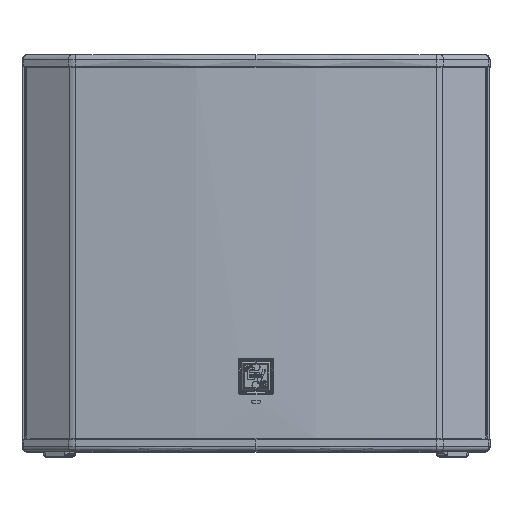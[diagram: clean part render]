
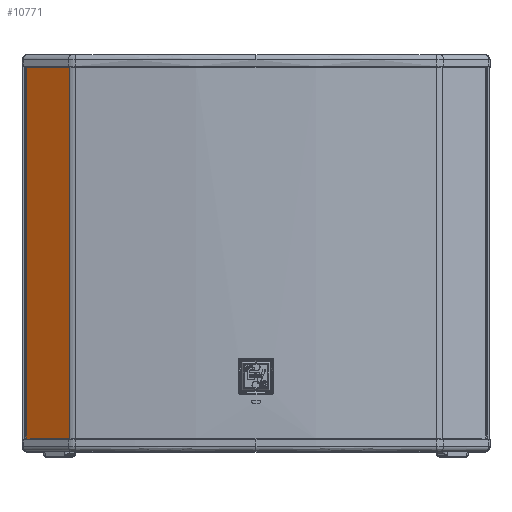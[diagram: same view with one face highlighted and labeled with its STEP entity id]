
A CAD part, top view. The second image highlights one B-rep face of the part: STEP entity #10771.
In plain terms, the highlighted planar face has unit normal (-0.53, 0, 0.848).
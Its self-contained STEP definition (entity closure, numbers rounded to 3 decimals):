
#5078 = DIRECTION ( 'NONE',  ( -0.53, 0., 0.848 ) ) ;
#6902 = ORIENTED_EDGE ( 'NONE', *, *, #33670, .T. ) ;
#7096 = LINE ( 'NONE', #14437, #58908 ) ;
#8185 = EDGE_CURVE ( 'NONE', #24642, #65620, #7096, .T. ) ;
#9327 = ORIENTED_EDGE ( 'NONE', *, *, #29474, .F. ) ;
#10771 = ADVANCED_FACE ( 'NONE', ( #25390 ), #62974, .T. ) ;
#14437 = CARTESIAN_POINT ( 'NONE',  ( -298.44, 240.775, 47.653 ) ) ;
#17113 = CARTESIAN_POINT ( 'NONE',  ( -298.44, -240.775, 47.653 ) ) ;
#17873 = EDGE_CURVE ( 'NONE', #65620, #73337, #55313, .T. ) ;
#18568 = VECTOR ( 'NONE', #69319, 1000. ) ;
#21310 = DIRECTION ( 'NONE',  ( -0.848, 0., -0.53 ) ) ;
#23669 = LINE ( 'NONE', #72374, #73400 ) ;
#24642 = VERTEX_POINT ( 'NONE', #66951 ) ;
#25165 = CARTESIAN_POINT ( 'NONE',  ( -241.574, -240.775, 83.187 ) ) ;
#25390 = FACE_OUTER_BOUND ( 'NONE', #78781, .T. ) ;
#29474 = EDGE_CURVE ( 'NONE', #36803, #73337, #68339, .T. ) ;
#30602 = ORIENTED_EDGE ( 'NONE', *, *, #17873, .T. ) ;
#32318 = CARTESIAN_POINT ( 'NONE',  ( -298.44, -240.775, 47.653 ) ) ;
#33670 = EDGE_CURVE ( 'NONE', #36803, #24642, #23669, .T. ) ;
#36803 = VERTEX_POINT ( 'NONE', #51434 ) ;
#40764 = AXIS2_PLACEMENT_3D ( 'NONE', #43979, #5078, #50495 ) ;
#43979 = CARTESIAN_POINT ( 'NONE',  ( -298.44, 240.775, 47.653 ) ) ;
#50495 = DIRECTION ( 'NONE',  ( 0.848, 0., 0.53 ) ) ;
#51434 = CARTESIAN_POINT ( 'NONE',  ( -241.574, 240.775, 83.187 ) ) ;
#53348 = DIRECTION ( 'NONE',  ( 0., -1., 0. ) ) ;
#55313 = LINE ( 'NONE', #32318, #72531 ) ;
#58908 = VECTOR ( 'NONE', #53348, 1000. ) ;
#62974 = PLANE ( 'NONE',  #40764 ) ;
#63215 = DIRECTION ( 'NONE',  ( 0.848, 0., 0.53 ) ) ;
#65620 = VERTEX_POINT ( 'NONE', #17113 ) ;
#66770 = ORIENTED_EDGE ( 'NONE', *, *, #8185, .T. ) ;
#66951 = CARTESIAN_POINT ( 'NONE',  ( -298.44, 240.775, 47.653 ) ) ;
#68339 = LINE ( 'NONE', #69598, #18568 ) ;
#69319 = DIRECTION ( 'NONE',  ( 0., -1., 0. ) ) ;
#69598 = CARTESIAN_POINT ( 'NONE',  ( -241.574, 481.627, 83.187 ) ) ;
#72374 = CARTESIAN_POINT ( 'NONE',  ( -298.44, 240.775, 47.653 ) ) ;
#72531 = VECTOR ( 'NONE', #63215, 1000. ) ;
#73337 = VERTEX_POINT ( 'NONE', #25165 ) ;
#73400 = VECTOR ( 'NONE', #21310, 1000. ) ;
#78781 = EDGE_LOOP ( 'NONE', ( #6902, #66770, #30602, #9327 ) ) ;
